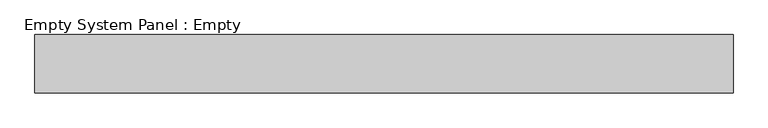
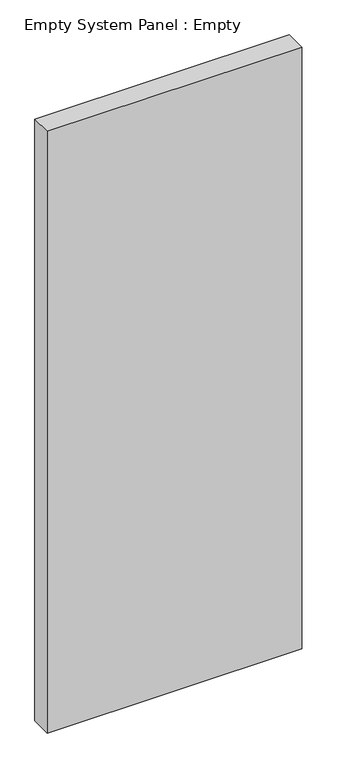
"""IFC4 building model written with IfcOpenShell, lengths in millimetres: plate geometry, Empty System Panel : Empty."""

import ifcopenshell
import ifcopenshell.guid

model = None  # the IFC model being written
_history = None  # IfcOwnerHistory: only IFC2X3 demands one
_inside = {}  # id of a spatial element -> (the spatial element, [elements in it])
_under = {}  # id of a project, library or spatial element -> (it, [spatial elements below it])
_declared = {}  # id of a project -> (the project, [libraries it declares])
_typed = {}  # id of a type object -> (the type object, [elements of that type])
_made_of = {}  # id of a material, layer set ... -> (it, [elements and type objects made of it])


def new_model(schema):
    """Start an empty IFC model of exactly this schema.

    Asked for "IFC4X3", IfcOpenShell would pick the latest addendum, in which some entities
    have other attributes; the version numbers below select the first issue.
    IFC2X3 requires an IfcOwnerHistory on every rooted entity: one is made here for all.
    """
    global model, _history
    if schema == "IFC4X3":
        model = ifcopenshell.file(schema_version=(4, 3, 0, 0))
    else:
        model = ifcopenshell.file(schema=schema)
    _inside.clear()
    _under.clear()
    _declared.clear()
    _typed.clear()
    _made_of.clear()
    _history = None
    if model.schema == "IFC2X3":
        org = make("IfcOrganization", Name="unknown")
        user = make(
            "IfcPersonAndOrganization",
            ThePerson=make("IfcPerson", FamilyName="unknown"),
            TheOrganization=org,
        )
        app = make(
            "IfcApplication",
            ApplicationDeveloper=org,
            Version="unknown",
            ApplicationFullName="unknown",
            ApplicationIdentifier="unknown",
        )
        _history = make(
            "IfcOwnerHistory",
            OwningUser=user,
            OwningApplication=app,
            ChangeAction="ADDED",
            CreationDate=0,
        )
    return model


def make(cls, **values):
    """One entity of the class cls with the attributes given. An attribute that is None is left unset."""
    return model.create_entity(
        cls, **{name: value for name, value in values.items() if value is not None}
    )


def rooted(cls, **values):
    """An entity with a GlobalId (a new one), such as an element, a storey or a relation."""
    return make(cls, GlobalId=ifcopenshell.guid.new(), OwnerHistory=_history, **values)


def si_unit(unit_type, name, prefix=None):
    """IfcSIUnit, for example si_unit("LENGTHUNIT", "METRE", prefix="MILLI")."""
    return make("IfcSIUnit", UnitType=unit_type, Prefix=prefix, Name=name)


def assignment(units):
    """IfcUnitAssignment: the units of a project."""
    return None if units is None else make("IfcUnitAssignment", Units=units)


def point(xyz):
    """IfcCartesianPoint."""
    return None if xyz is None else make("IfcCartesianPoint", Coordinates=xyz)


def direction(xyz):
    """IfcDirection."""
    return None if xyz is None else make("IfcDirection", DirectionRatios=xyz)


def frame(location, z_axis=None, x_axis=None):
    """IfcAxis2Placement3D, a coordinate frame: its origin and axes. An axis left out is left unset."""
    return make(
        "IfcAxis2Placement3D",
        Location=point(location),
        Axis=direction(z_axis),
        RefDirection=direction(x_axis),
    )


def origin():
    """The frame at (0, 0, 0) with its axes left unset."""
    return frame((0.0, 0.0, 0.0))


def origin_with_axes():
    """The frame at (0, 0, 0) with the z axis (0, 0, 1) and the x axis (1, 0, 0) written out."""
    return frame((0.0, 0.0, 0.0), z_axis=(0.0, 0.0, 1.0), x_axis=(1.0, 0.0, 0.0))


def place(relative_to, where):
    """IfcLocalPlacement: puts the frame where relative to a parent placement (None: the world)."""
    return make(
        "IfcLocalPlacement", PlacementRelTo=relative_to, RelativePlacement=where
    )


def context(
    kind, dimensions, precision=None, world=None, true_north=None, identifier=None
):
    """IfcGeometricRepresentationContext, for example the 3D "Model" context."""
    return make(
        "IfcGeometricRepresentationContext",
        ContextIdentifier=identifier,
        ContextType=kind,
        CoordinateSpaceDimension=dimensions,
        Precision=precision,
        WorldCoordinateSystem=world,
        TrueNorth=true_north,
    )


def project(units=None, contexts=None):
    """IfcProject with its units and contexts."""
    return rooted(
        "IfcProject",
        Name="project",
        RepresentationContexts=contexts,
        UnitsInContext=assignment(units),
    )


def spatial(cls, under=None, at=None, **own):
    """A site, building, storey or space (cls), placed at a placement, below another one or the project."""
    s = rooted(cls, ObjectPlacement=at, **own)
    if under is not None:
        _under.setdefault(under.id(), (under, []))[1].append(s)
    return s


def polyline(points):
    """IfcPolyline through the points."""
    return make("IfcPolyline", Points=[point(p) for p in points])


def outline(outer, holes=None, kind="AREA"):
    """IfcArbitraryClosedProfileDef: a profile drawn as a closed curve; with holes, ...WithVoids."""
    if holes is None:
        return make("IfcArbitraryClosedProfileDef", ProfileType=kind, OuterCurve=outer)
    return make(
        "IfcArbitraryProfileDefWithVoids",
        ProfileType=kind,
        OuterCurve=outer,
        InnerCurves=holes,
    )


def extrude(swept, where, along, depth):
    """IfcExtrudedAreaSolid: the profile swept, set in the frame where, extruded along a direction by depth."""
    return make(
        "IfcExtrudedAreaSolid",
        SweptArea=swept,
        Position=where,
        ExtrudedDirection=direction(along),
        Depth=depth,
    )


def shape(context_of_items, identifier, shape_type, items):
    """IfcShapeRepresentation: the items that make up one representation, for example the "Body"."""
    return make(
        "IfcShapeRepresentation",
        ContextOfItems=context_of_items,
        RepresentationIdentifier=identifier,
        RepresentationType=shape_type,
        Items=items,
    )


def source(mapping_origin, context_of_items, identifier, shape_type, items):
    """IfcRepresentationMap: a shape defined once, which mapped items show again and again."""
    return make(
        "IfcRepresentationMap",
        MappingOrigin=mapping_origin,
        MappedRepresentation=shape(context_of_items, identifier, shape_type, items),
    )


def transform(
    local_origin,
    x_axis=None,
    y_axis=None,
    z_axis=None,
    scale=None,
    scale2=None,
    scale3=None,
    uniform=True,
):
    """IfcCartesianTransformationOperator3D, or its non-uniform kind. x_axis, y_axis, z_axis: its Axis1, 2, 3."""
    if uniform:
        return make(
            "IfcCartesianTransformationOperator3D",
            Axis1=direction(x_axis),
            Axis2=direction(y_axis),
            LocalOrigin=point(local_origin),
            Scale=scale,
            Axis3=direction(z_axis),
        )
    return make(
        "IfcCartesianTransformationOperator3DnonUniform",
        Axis1=direction(x_axis),
        Axis2=direction(y_axis),
        LocalOrigin=point(local_origin),
        Scale=scale,
        Axis3=direction(z_axis),
        Scale2=scale2,
        Scale3=scale3,
    )


def mapped(mapping_source, mapping_target):
    """IfcMappedItem: shows the shape of a source again, moved by a transform."""
    return make(
        "IfcMappedItem", MappingSource=mapping_source, MappingTarget=mapping_target
    )


def made_of(thing, what):
    """Note that an element or type object is made of a material, layer set ...; save() writes the relation."""
    if what is not None:
        _made_of.setdefault(what.id(), (what, []))[1].append(thing)
    return thing


def element(
    cls,
    number,
    at=None,
    inside=None,
    cuts=None,
    type_object=None,
    material=None,
    context=None,
    identifier="Body",
    shape_type=None,
    held_by="IfcProductDefinitionShape",
    body=None,
    shapes=None,
    **own,
):
    """One element of the class cls, such as IfcWall. Its Tag is "e" and its number.

    at: its placement. inside: the storey or other place that contains it. cuts: it is an
    opening in that element (IfcRelVoidsElement). A single representation is given by context,
    identifier, shape_type and body (its items); several are given by shapes. held_by: the class
    of the entity that holds the representations. save() writes the other relations.
    """
    e = rooted(cls, Tag="e%d" % number, ObjectPlacement=at, **own)
    if body is not None:
        shapes = [shape(context, identifier, shape_type, body)]
    if shapes is not None:
        e.Representation = make(held_by, Representations=shapes)
    if inside is not None:
        _inside.setdefault(inside.id(), (inside, []))[1].append(e)
    if cuts is not None:
        rooted(
            "IfcRelVoidsElement", RelatingBuildingElement=cuts, RelatedOpeningElement=e
        )
    if type_object is not None:
        _typed.setdefault(type_object.id(), (type_object, []))[1].append(e)
    return made_of(e, material)


def aggregate(whole, parts):
    """IfcRelAggregates: a whole, such as a stair, and the parts it consists of."""
    return rooted("IfcRelAggregates", RelatingObject=whole, RelatedObjects=parts)


def save(model, path):
    """Write the relations noted so far, then the file.

    IfcRelAggregates (storeys below a building ...), IfcRelContainedInSpatialStructure (elements
    in a storey), IfcRelDefinesByType, IfcRelAssociatesMaterial and IfcRelDeclares: one each for
    every whole, place, type object, material and project.
    """
    for whole, parts in _under.values():
        aggregate(whole, parts)
    for where, things in _inside.values():
        rooted(
            "IfcRelContainedInSpatialStructure",
            RelatedElements=things,
            RelatingStructure=where,
        )
    for kind, things in _typed.values():
        rooted("IfcRelDefinesByType", RelatedObjects=things, RelatingType=kind)
    for what, things in _made_of.values():
        rooted("IfcRelAssociatesMaterial", RelatedObjects=things, RelatingMaterial=what)
    for by, libraries in _declared.values():
        rooted("IfcRelDeclares", RelatingContext=by, RelatedDefinitions=libraries)
    model.write(path)


def empty_system_panel_empty_aabbdda4(model_context):
    return source(origin(), model_context, "Body", "SweptSolid", [
        extrude(outline(polyline([(600.0, -150.0), (-600.0, -150.0), (-600.0, -50.0), (600.0, -50.0), (600.0, -150.0)])), origin_with_axes(), (0.0, 0.0, 1.0), 3000.0),
    ])


if __name__ == "__main__":
    model = new_model("IFC4")
    model_context = context("Model", 3, world=origin())
    ifc_project = project(units=[si_unit("LENGTHUNIT", "METRE", prefix="MILLI")], contexts=[model_context])
    site = spatial("IfcSite", under=ifc_project)
    building = spatial("IfcBuilding", under=site)
    placement = place(None, origin())
    empty_system_panel_empty_shape = empty_system_panel_empty_aabbdda4(model_context)
    element("IfcPlate", 1, ObjectType="Empty System Panel : Empty", at=placement, inside=building, context=model_context, shape_type="MappedRepresentation", body=[
        mapped(empty_system_panel_empty_shape, transform((0.0, 0.0, 0.0), x_axis=(1.0, 0.0, 0.0), y_axis=(0.0, 1.0, 0.0), z_axis=(0.0, 0.0, 1.0))),
    ])
    save(model, "model.ifc")
